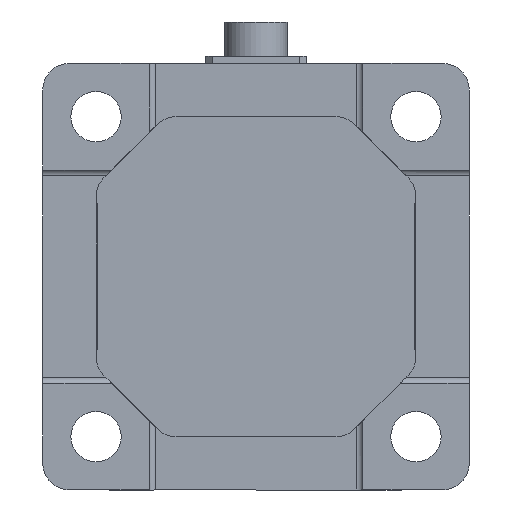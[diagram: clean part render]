
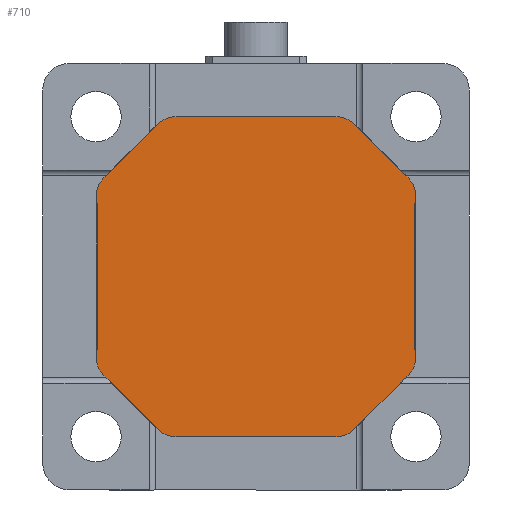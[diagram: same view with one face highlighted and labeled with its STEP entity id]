
A CAD part, front view. The second image highlights one B-rep face of the part: STEP entity #710.
In plain terms, the highlighted planar face has unit normal (0, -1, 0).
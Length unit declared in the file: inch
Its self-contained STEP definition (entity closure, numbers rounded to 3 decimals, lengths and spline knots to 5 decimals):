
#9 = ORIENTED_EDGE ( 'NONE', *, *, #3142, .T. ) ;
#17 = VERTEX_POINT ( 'NONE', #2095 ) ;
#38 = LINE ( 'NONE', #2129, #1948 ) ;
#72 = EDGE_CURVE ( 'NONE', #17, #1575, #750, .T. ) ;
#96 = EDGE_CURVE ( 'NONE', #255, #1456, #1250, .T. ) ;
#102 = CARTESIAN_POINT ( 'NONE',  ( 1.48486, 0.06298, -1.74913 ) ) ;
#114 = EDGE_CURVE ( 'NONE', #2036, #2773, #1977, .T. ) ;
#133 = ORIENTED_EDGE ( 'NONE', *, *, #2789, .T. ) ;
#148 = LINE ( 'NONE', #940, #3136 ) ;
#155 = CARTESIAN_POINT ( 'NONE',  ( 1.42606, 0.06298, 0.92631 ) ) ;
#161 = AXIS2_PLACEMENT_3D ( 'NONE', #2649, #2672, #2658 ) ;
#225 = VECTOR ( 'NONE', #2604, 39.37008 ) ;
#255 = VERTEX_POINT ( 'NONE', #1993 ) ;
#301 = EDGE_CURVE ( 'NONE', #2773, #2154, #323, .T. ) ;
#323 = CIRCLE ( 'NONE', #2684, 0.24987 ) ;
#325 = CARTESIAN_POINT ( 'NONE',  ( 0.92631, 0.06298, 1.42606 ) ) ;
#340 = ORIENTED_EDGE ( 'NONE', *, *, #1209, .T. ) ;
#372 = DIRECTION ( 'NONE',  ( 0., 0., 1. ) ) ;
#377 = DIRECTION ( 'NONE',  ( 0., -1., 0. ) ) ;
#414 = AXIS2_PLACEMENT_3D ( 'NONE', #1121, #2899, #2946 ) ;
#423 = DIRECTION ( 'NONE',  ( 0., 0., -1. ) ) ;
#433 = LINE ( 'NONE', #102, #1197 ) ;
#438 = DIRECTION ( 'NONE',  ( -1., 0., 0. ) ) ;
#472 = CARTESIAN_POINT ( 'NONE',  ( -0.92631, 0.06298, 1.42606 ) ) ;
#477 = CARTESIAN_POINT ( 'NONE',  ( -0.74963, 0.06298, -1.49925 ) ) ;
#593 = AXIS2_PLACEMENT_3D ( 'NONE', #1231, #1980, #773 ) ;
#634 = PLANE ( 'NONE',  #161 ) ;
#652 = VECTOR ( 'NONE', #2368, 39.37008 ) ;
#708 = CARTESIAN_POINT ( 'NONE',  ( -1.42606, 0.06298, 0.92631 ) ) ;
#710 = ADVANCED_FACE ( 'NONE', ( #2722 ), #634, .T. ) ;
#728 = EDGE_CURVE ( 'NONE', #2662, #2835, #1504, .T. ) ;
#750 = LINE ( 'NONE', #155, #652 ) ;
#764 = ORIENTED_EDGE ( 'NONE', *, *, #72, .T. ) ;
#773 = DIRECTION ( 'NONE',  ( 0., 0., -1. ) ) ;
#853 = ORIENTED_EDGE ( 'NONE', *, *, #301, .T. ) ;
#865 = ORIENTED_EDGE ( 'NONE', *, *, #1432, .T. ) ;
#932 = CARTESIAN_POINT ( 'NONE',  ( 0.74962, 0.06298, -1.24938 ) ) ;
#940 = CARTESIAN_POINT ( 'NONE',  ( -1.74913, 0.06298, -1.49925 ) ) ;
#966 = VERTEX_POINT ( 'NONE', #477 ) ;
#992 = VERTEX_POINT ( 'NONE', #2225 ) ;
#997 = ORIENTED_EDGE ( 'NONE', *, *, #2418, .T. ) ;
#1001 = DIRECTION ( 'NONE',  ( 0., -1., 0. ) ) ;
#1071 = EDGE_LOOP ( 'NONE', ( #865, #133, #2740, #2464, #2202, #997, #9, #2623, #1171, #2493, #340, #1696, #764, #1767, #2787, #853 ) ) ;
#1104 = AXIS2_PLACEMENT_3D ( 'NONE', #1610, #2110, #3203 ) ;
#1116 = CARTESIAN_POINT ( 'NONE',  ( -1.42606, 0.06298, -0.92631 ) ) ;
#1121 = CARTESIAN_POINT ( 'NONE',  ( -1.24938, 0.06298, 0.74962 ) ) ;
#1150 = CARTESIAN_POINT ( 'NONE',  ( 0.74962, 0.06298, 1.49925 ) ) ;
#1158 = AXIS2_PLACEMENT_3D ( 'NONE', #2905, #377, #2378 ) ;
#1162 = EDGE_CURVE ( 'NONE', #3140, #2033, #3231, .T. ) ;
#1171 = ORIENTED_EDGE ( 'NONE', *, *, #2747, .T. ) ;
#1182 = VERTEX_POINT ( 'NONE', #2071 ) ;
#1197 = VECTOR ( 'NONE', #372, 39.37008 ) ;
#1209 = EDGE_CURVE ( 'NONE', #1182, #992, #433, .T. ) ;
#1231 = CARTESIAN_POINT ( 'NONE',  ( -1.24938, 0.06298, -0.74963 ) ) ;
#1232 = AXIS2_PLACEMENT_3D ( 'NONE', #2977, #1674, #1265 ) ;
#1233 = VECTOR ( 'NONE', #1931, 39.37008 ) ;
#1250 = CIRCLE ( 'NONE', #3023, 0.24987 ) ;
#1265 = DIRECTION ( 'NONE',  ( 0., 0., -1. ) ) ;
#1364 = VERTEX_POINT ( 'NONE', #2664 ) ;
#1372 = EDGE_CURVE ( 'NONE', #992, #17, #2888, .T. ) ;
#1400 = CARTESIAN_POINT ( 'NONE',  ( -0.92631, 0.06298, -1.42606 ) ) ;
#1432 = EDGE_CURVE ( 'NONE', #2154, #1455, #2054, .T. ) ;
#1436 = VECTOR ( 'NONE', #1628, 39.37008 ) ;
#1455 = VERTEX_POINT ( 'NONE', #708 ) ;
#1456 = VERTEX_POINT ( 'NONE', #2209 ) ;
#1459 = CARTESIAN_POINT ( 'NONE',  ( -0.92631, 0.06298, 1.42606 ) ) ;
#1504 = LINE ( 'NONE', #1889, #1436 ) ;
#1533 = DIRECTION ( 'NONE',  ( 0., 0., -1. ) ) ;
#1575 = VERTEX_POINT ( 'NONE', #325 ) ;
#1610 = CARTESIAN_POINT ( 'NONE',  ( 1.24937, 0.06298, 0.74962 ) ) ;
#1628 = DIRECTION ( 'NONE',  ( 0., 0., -1. ) ) ;
#1674 = DIRECTION ( 'NONE',  ( 0., -1., 0. ) ) ;
#1678 = DIRECTION ( 'NONE',  ( 0., -1., 0. ) ) ;
#1696 = ORIENTED_EDGE ( 'NONE', *, *, #1372, .T. ) ;
#1737 = CARTESIAN_POINT ( 'NONE',  ( -0.74963, 0.06298, 1.24937 ) ) ;
#1767 = ORIENTED_EDGE ( 'NONE', *, *, #1952, .T. ) ;
#1889 = CARTESIAN_POINT ( 'NONE',  ( -1.48486, 0.06298, -1.74913 ) ) ;
#1931 = DIRECTION ( 'NONE',  ( -0.707, 0., -0.707 ) ) ;
#1933 = CARTESIAN_POINT ( 'NONE',  ( -1.42606, 0.06298, -0.92631 ) ) ;
#1948 = VECTOR ( 'NONE', #3186, 39.37008 ) ;
#1952 = EDGE_CURVE ( 'NONE', #1575, #2036, #2755, .T. ) ;
#1972 = DIRECTION ( 'NONE',  ( 1., 0., 0. ) ) ;
#1977 = LINE ( 'NONE', #3235, #2852 ) ;
#1980 = DIRECTION ( 'NONE',  ( 0., -1., 0. ) ) ;
#1993 = CARTESIAN_POINT ( 'NONE',  ( 0.74962, 0.06298, -1.49925 ) ) ;
#2033 = VERTEX_POINT ( 'NONE', #1400 ) ;
#2036 = VERTEX_POINT ( 'NONE', #1150 ) ;
#2054 = LINE ( 'NONE', #1459, #1233 ) ;
#2071 = CARTESIAN_POINT ( 'NONE',  ( 1.48486, 0.06298, -0.66604 ) ) ;
#2095 = CARTESIAN_POINT ( 'NONE',  ( 1.42606, 0.06298, 0.92631 ) ) ;
#2110 = DIRECTION ( 'NONE',  ( 0., -1., 0. ) ) ;
#2129 = CARTESIAN_POINT ( 'NONE',  ( 0.92631, 0.06298, -1.42606 ) ) ;
#2154 = VERTEX_POINT ( 'NONE', #472 ) ;
#2202 = ORIENTED_EDGE ( 'NONE', *, *, #1162, .T. ) ;
#2209 = CARTESIAN_POINT ( 'NONE',  ( 0.92631, 0.06298, -1.42606 ) ) ;
#2225 = CARTESIAN_POINT ( 'NONE',  ( 1.48486, 0.06298, 0.66604 ) ) ;
#2254 = EDGE_CURVE ( 'NONE', #1364, #1182, #3172, .T. ) ;
#2302 = EDGE_CURVE ( 'NONE', #2835, #3140, #2857, .T. ) ;
#2307 = CARTESIAN_POINT ( 'NONE',  ( -0.74963, 0.06298, -1.24938 ) ) ;
#2334 = CARTESIAN_POINT ( 'NONE',  ( -1.48486, 0.06298, 0.66604 ) ) ;
#2368 = DIRECTION ( 'NONE',  ( -0.707, 0., 0.707 ) ) ;
#2378 = DIRECTION ( 'NONE',  ( 0., 0., -1. ) ) ;
#2418 = EDGE_CURVE ( 'NONE', #2033, #966, #2896, .T. ) ;
#2464 = ORIENTED_EDGE ( 'NONE', *, *, #2302, .T. ) ;
#2466 = CARTESIAN_POINT ( 'NONE',  ( -1.48486, 0.06298, -0.66604 ) ) ;
#2493 = ORIENTED_EDGE ( 'NONE', *, *, #2254, .T. ) ;
#2495 = AXIS2_PLACEMENT_3D ( 'NONE', #2307, #3095, #1533 ) ;
#2604 = DIRECTION ( 'NONE',  ( 0.707, 0., -0.707 ) ) ;
#2623 = ORIENTED_EDGE ( 'NONE', *, *, #96, .T. ) ;
#2649 = CARTESIAN_POINT ( 'NONE',  ( -1.74913, 0.06298, -1.74913 ) ) ;
#2658 = DIRECTION ( 'NONE',  ( 0., 0., -1. ) ) ;
#2662 = VERTEX_POINT ( 'NONE', #2334 ) ;
#2664 = CARTESIAN_POINT ( 'NONE',  ( 1.42606, 0.06298, -0.92631 ) ) ;
#2672 = DIRECTION ( 'NONE',  ( 0., -1., 0. ) ) ;
#2684 = AXIS2_PLACEMENT_3D ( 'NONE', #1737, #1001, #3054 ) ;
#2722 = FACE_OUTER_BOUND ( 'NONE', #1071, .T. ) ;
#2740 = ORIENTED_EDGE ( 'NONE', *, *, #728, .T. ) ;
#2747 = EDGE_CURVE ( 'NONE', #1456, #1364, #38, .T. ) ;
#2755 = CIRCLE ( 'NONE', #1158, 0.24987 ) ;
#2773 = VERTEX_POINT ( 'NONE', #3160 ) ;
#2787 = ORIENTED_EDGE ( 'NONE', *, *, #114, .T. ) ;
#2789 = EDGE_CURVE ( 'NONE', #1455, #2662, #2807, .T. ) ;
#2807 = CIRCLE ( 'NONE', #414, 0.24987 ) ;
#2835 = VERTEX_POINT ( 'NONE', #2466 ) ;
#2852 = VECTOR ( 'NONE', #438, 39.37008 ) ;
#2857 = CIRCLE ( 'NONE', #593, 0.24987 ) ;
#2888 = CIRCLE ( 'NONE', #1104, 0.24987 ) ;
#2896 = CIRCLE ( 'NONE', #2495, 0.24988 ) ;
#2899 = DIRECTION ( 'NONE',  ( 0., -1., 0. ) ) ;
#2905 = CARTESIAN_POINT ( 'NONE',  ( 0.74962, 0.06298, 1.24937 ) ) ;
#2946 = DIRECTION ( 'NONE',  ( 0., 0., -1. ) ) ;
#2977 = CARTESIAN_POINT ( 'NONE',  ( 1.24937, 0.06298, -0.74963 ) ) ;
#3023 = AXIS2_PLACEMENT_3D ( 'NONE', #932, #1678, #423 ) ;
#3054 = DIRECTION ( 'NONE',  ( 0., 0., -1. ) ) ;
#3095 = DIRECTION ( 'NONE',  ( 0., -1., 0. ) ) ;
#3136 = VECTOR ( 'NONE', #1972, 39.37008 ) ;
#3140 = VERTEX_POINT ( 'NONE', #1933 ) ;
#3142 = EDGE_CURVE ( 'NONE', #966, #255, #148, .T. ) ;
#3160 = CARTESIAN_POINT ( 'NONE',  ( -0.74963, 0.06298, 1.49925 ) ) ;
#3172 = CIRCLE ( 'NONE', #1232, 0.24987 ) ;
#3186 = DIRECTION ( 'NONE',  ( 0.707, 0., 0.707 ) ) ;
#3203 = DIRECTION ( 'NONE',  ( 0., 0., -1. ) ) ;
#3231 = LINE ( 'NONE', #1116, #225 ) ;
#3235 = CARTESIAN_POINT ( 'NONE',  ( -1.74913, 0.06298, 1.49925 ) ) ;
